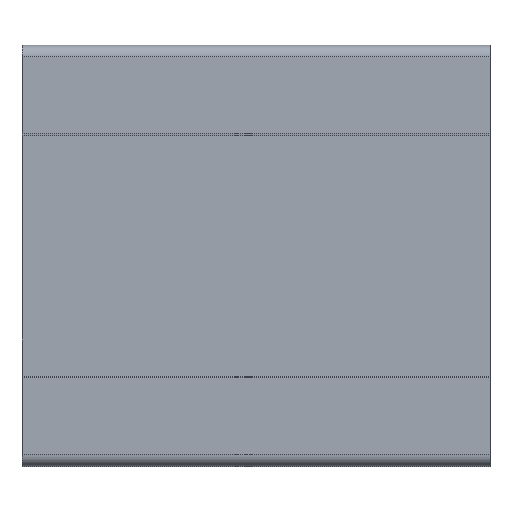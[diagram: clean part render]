
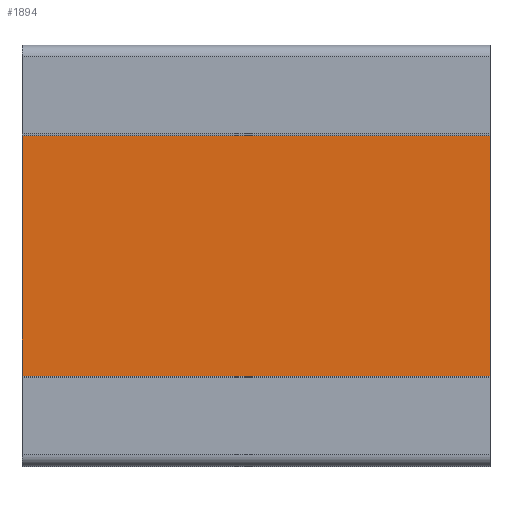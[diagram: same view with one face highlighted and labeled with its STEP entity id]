
A CAD part, top view. The second image highlights one B-rep face of the part: STEP entity #1894.
In plain terms, the highlighted planar face has unit normal (0, 0, 1).
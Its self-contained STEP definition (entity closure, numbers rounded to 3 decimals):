
#7 = CARTESIAN_POINT ( 'NONE',  ( -40.816, 29.198, 23.5 ) ) ;
#152 = CARTESIAN_POINT ( 'NONE',  ( 59.184, 80.598, 23.5 ) ) ;
#393 = EDGE_LOOP ( 'NONE', ( #1175, #2825, #1102, #1280 ) ) ;
#442 = DIRECTION ( 'NONE',  ( 0., -1., 0. ) ) ;
#648 = FACE_OUTER_BOUND ( 'NONE', #393, .T. ) ;
#732 = CARTESIAN_POINT ( 'NONE',  ( 59.184, 29.198, 23.5 ) ) ;
#737 = VERTEX_POINT ( 'NONE', #732 ) ;
#748 = DIRECTION ( 'NONE',  ( -1., 0., 0. ) ) ;
#792 = LINE ( 'NONE', #3180, #3073 ) ;
#1034 = CARTESIAN_POINT ( 'NONE',  ( -40.816, 80.598, 23.5 ) ) ;
#1102 = ORIENTED_EDGE ( 'NONE', *, *, #4279, .F. ) ;
#1142 = VERTEX_POINT ( 'NONE', #7 ) ;
#1175 = ORIENTED_EDGE ( 'NONE', *, *, #2354, .T. ) ;
#1280 = ORIENTED_EDGE ( 'NONE', *, *, #4308, .T. ) ;
#1441 = DIRECTION ( 'NONE',  ( 0., 0., -1. ) ) ;
#1449 = VECTOR ( 'NONE', #2227, 1000. ) ;
#1826 = DIRECTION ( 'NONE',  ( -1., 0., 0. ) ) ;
#1894 = ADVANCED_FACE ( 'NONE', ( #648 ), #2782, .F. ) ;
#2114 = CARTESIAN_POINT ( 'NONE',  ( 59.184, 29.198, 23.5 ) ) ;
#2220 = EDGE_CURVE ( 'NONE', #737, #1142, #3723, .T. ) ;
#2227 = DIRECTION ( 'NONE',  ( 0., -1., 0. ) ) ;
#2256 = LINE ( 'NONE', #152, #3258 ) ;
#2354 = EDGE_CURVE ( 'NONE', #4160, #1142, #792, .T. ) ;
#2359 = LINE ( 'NONE', #3880, #1449 ) ;
#2782 = PLANE ( 'NONE',  #2983 ) ;
#2825 = ORIENTED_EDGE ( 'NONE', *, *, #2220, .F. ) ;
#2968 = CARTESIAN_POINT ( 'NONE',  ( 59.184, 80.598, 23.5 ) ) ;
#2983 = AXIS2_PLACEMENT_3D ( 'NONE', #3484, #1441, #3820 ) ;
#3073 = VECTOR ( 'NONE', #442, 1000. ) ;
#3180 = CARTESIAN_POINT ( 'NONE',  ( -40.816, 80.598, 23.5 ) ) ;
#3258 = VECTOR ( 'NONE', #1826, 1000. ) ;
#3299 = VECTOR ( 'NONE', #748, 1000. ) ;
#3379 = VERTEX_POINT ( 'NONE', #2968 ) ;
#3484 = CARTESIAN_POINT ( 'NONE',  ( 59.184, 80.598, 23.5 ) ) ;
#3723 = LINE ( 'NONE', #2114, #3299 ) ;
#3820 = DIRECTION ( 'NONE',  ( -1., 0., 0. ) ) ;
#3880 = CARTESIAN_POINT ( 'NONE',  ( 59.184, 80.598, 23.5 ) ) ;
#4160 = VERTEX_POINT ( 'NONE', #1034 ) ;
#4279 = EDGE_CURVE ( 'NONE', #3379, #737, #2359, .T. ) ;
#4308 = EDGE_CURVE ( 'NONE', #3379, #4160, #2256, .T. ) ;
